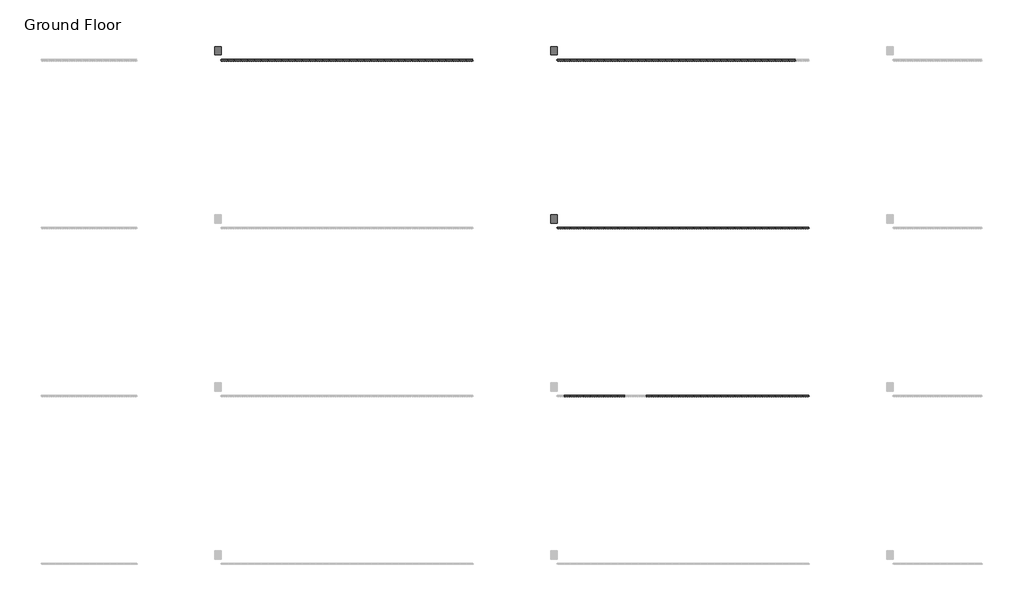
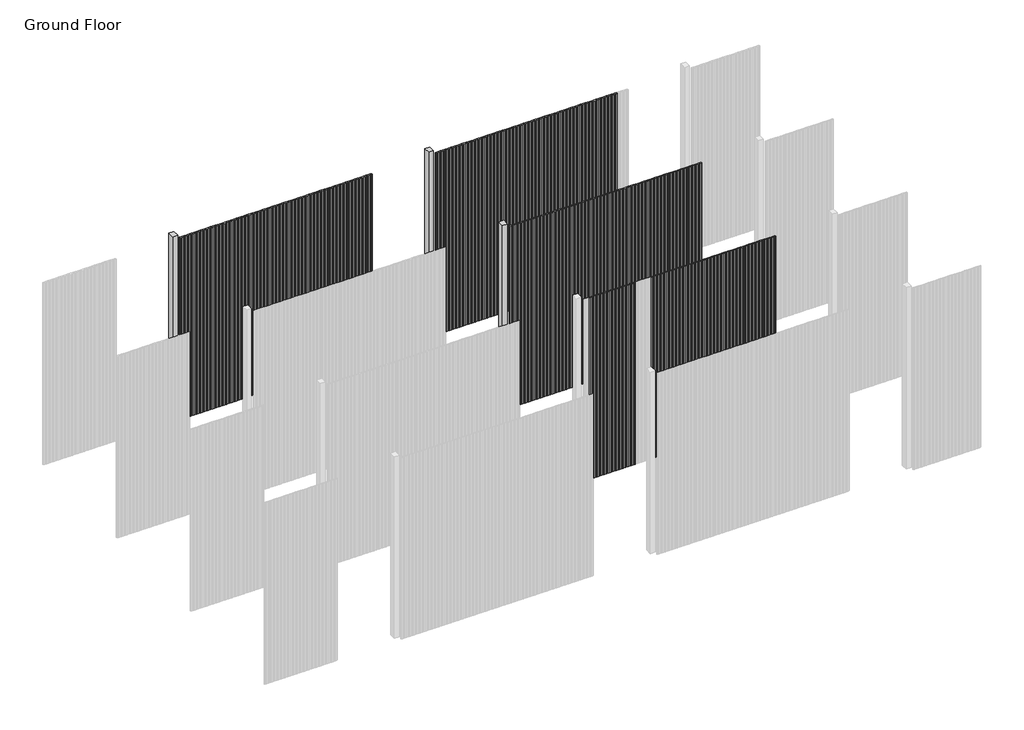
# One storey, part 41 of 350: 142 members, 3 plates.
"""IFC4 building model written with IfcOpenShell, lengths in millimetres."""

from ifc_helpers import new_model, si_unit, origin, place, context, project, spatial, transform, mapped, element, save
from components import rectangular_mullion_624eee80, rectangular_mullion_14973cdb, rectangular_mullion_eca9a012, empty_system_panel_empty_cbd4e42b

model = new_model("IFC4")

# Units and contexts
model_context = context("Model", 3, world=origin())
ifc_project = project(units=[si_unit("LENGTHUNIT", "METRE", prefix="MILLI")], contexts=[model_context])

# Site, building, storey
site = spatial("IfcSite", under=ifc_project)
building = spatial("IfcBuilding", under=site)
storey = spatial("IfcBuildingStorey", under=building, Name="Ground Floor", Elevation=0.0)

# Members
placement = place(None, origin())
rectangular_mullion_shape = rectangular_mullion_624eee80(model_context)
element("IfcMember", 1, ObjectType="Rectangular Mullion : Cladding_Timber_Modinex_Castelation_81x21_Hemlock", at=placement, inside=storey, context=model_context, shape_type="MappedRepresentation", body=[
    mapped(rectangular_mullion_shape, transform((38536.4361642, 26968.2978302, 0.0), x_axis=(1.0, 0.0, 0.0), y_axis=(0.0, -1.0, 0.0), z_axis=(0.0, 0.0, -1.0))),
])
element("IfcMember", 2, ObjectType="Rectangular Mullion : Cladding_Timber_Modinex_Castelation_81x21_Hemlock", at=placement, inside=storey, context=model_context, shape_type="MappedRepresentation", body=[
    mapped(rectangular_mullion_shape, transform((38617.4361642, 26968.2978302, 0.0), x_axis=(1.0, 0.0, 0.0), y_axis=(0.0, -1.0, 0.0), z_axis=(0.0, 0.0, -1.0))),
])
element("IfcMember", 3, ObjectType="Rectangular Mullion : Cladding_Timber_Modinex_Castelation_81x21_Hemlock", at=placement, inside=storey, context=model_context, shape_type="MappedRepresentation", body=[
    mapped(rectangular_mullion_shape, transform((38698.4361642, 26968.2978302, 0.0), x_axis=(1.0, 0.0, 0.0), y_axis=(0.0, -1.0, 0.0), z_axis=(0.0, 0.0, -1.0))),
])
element("IfcMember", 4, ObjectType="Rectangular Mullion : Cladding_Timber_Modinex_Castelation_81x21_Hemlock", at=placement, inside=storey, context=model_context, shape_type="MappedRepresentation", body=[
    mapped(rectangular_mullion_shape, transform((38779.4361642, 26968.2978302, 0.0), x_axis=(1.0, 0.0, 0.0), y_axis=(0.0, -1.0, 0.0), z_axis=(0.0, 0.0, -1.0))),
])
element("IfcMember", 5, ObjectType="Rectangular Mullion : Cladding_Timber_Modinex_Castelation_81x21_Hemlock", at=placement, inside=storey, context=model_context, shape_type="MappedRepresentation", body=[
    mapped(rectangular_mullion_shape, transform((38860.4361642, 26968.2978302, 0.0), x_axis=(1.0, 0.0, 0.0), y_axis=(0.0, -1.0, 0.0), z_axis=(0.0, 0.0, -1.0))),
])
element("IfcMember", 6, ObjectType="Rectangular Mullion : Cladding_Timber_Modinex_Castelation_81x21_Hemlock", at=placement, inside=storey, context=model_context, shape_type="MappedRepresentation", body=[
    mapped(rectangular_mullion_shape, transform((38941.4361642, 26968.2978302, 0.0), x_axis=(1.0, 0.0, 0.0), y_axis=(0.0, -1.0, 0.0), z_axis=(0.0, 0.0, -1.0))),
])
element("IfcMember", 7, ObjectType="Rectangular Mullion : Cladding_Timber_Modinex_Castelation_81x21_Hemlock", at=placement, inside=storey, context=model_context, shape_type="MappedRepresentation", body=[
    mapped(rectangular_mullion_shape, transform((39022.4361642, 26968.2978302, 0.0), x_axis=(1.0, 0.0, 0.0), y_axis=(0.0, -1.0, 0.0), z_axis=(0.0, 0.0, -1.0))),
])
element("IfcMember", 8, ObjectType="Rectangular Mullion : Cladding_Timber_Modinex_Castelation_81x21_Hemlock", at=placement, inside=storey, context=model_context, shape_type="MappedRepresentation", body=[
    mapped(rectangular_mullion_shape, transform((39103.4361642, 26968.2978302, 0.0), x_axis=(1.0, 0.0, 0.0), y_axis=(0.0, -1.0, 0.0), z_axis=(0.0, 0.0, -1.0))),
])
element("IfcMember", 9, ObjectType="Rectangular Mullion : Cladding_Timber_Modinex_Castelation_81x21_Hemlock", at=placement, inside=storey, context=model_context, shape_type="MappedRepresentation", body=[
    mapped(rectangular_mullion_shape, transform((39184.4361642, 26968.2978302, 0.0), x_axis=(1.0, 0.0, 0.0), y_axis=(0.0, -1.0, 0.0), z_axis=(0.0, 0.0, -1.0))),
])
element("IfcMember", 10, ObjectType="Rectangular Mullion : Cladding_Timber_Modinex_Castelation_81x21_Hemlock", at=placement, inside=storey, context=model_context, shape_type="MappedRepresentation", body=[
    mapped(rectangular_mullion_shape, transform((39265.4361642, 26968.2978302, 0.0), x_axis=(1.0, 0.0, 0.0), y_axis=(0.0, -1.0, 0.0), z_axis=(0.0, 0.0, -1.0))),
])
element("IfcMember", 11, ObjectType="Rectangular Mullion : Cladding_Timber_Modinex_Castelation_81x21_Hemlock", at=placement, inside=storey, context=model_context, shape_type="MappedRepresentation", body=[
    mapped(rectangular_mullion_shape, transform((39346.4361642, 26968.2978302, 0.0), x_axis=(1.0, 0.0, 0.0), y_axis=(0.0, -1.0, 0.0), z_axis=(0.0, 0.0, -1.0))),
])
element("IfcMember", 12, ObjectType="Rectangular Mullion : Cladding_Timber_Modinex_Castelation_81x21_Hemlock", at=placement, inside=storey, context=model_context, shape_type="MappedRepresentation", body=[
    mapped(rectangular_mullion_shape, transform((39427.4361642, 26968.2978302, 0.0), x_axis=(1.0, 0.0, 0.0), y_axis=(0.0, -1.0, 0.0), z_axis=(0.0, 0.0, -1.0))),
])
element("IfcMember", 13, ObjectType="Rectangular Mullion : Cladding_Timber_Modinex_Castelation_81x21_Hemlock", at=placement, inside=storey, context=model_context, shape_type="MappedRepresentation", body=[
    mapped(rectangular_mullion_shape, transform((39508.4361642, 26968.2978302, 0.0), x_axis=(1.0, 0.0, 0.0), y_axis=(0.0, -1.0, 0.0), z_axis=(0.0, 0.0, -1.0))),
])
element("IfcMember", 14, ObjectType="Rectangular Mullion : Cladding_Timber_Modinex_Castelation_81x21_Hemlock", at=placement, inside=storey, context=model_context, shape_type="MappedRepresentation", body=[
    mapped(rectangular_mullion_shape, transform((39589.4361642, 26968.2978302, 0.0), x_axis=(1.0, 0.0, 0.0), y_axis=(0.0, -1.0, 0.0), z_axis=(0.0, 0.0, -1.0))),
])
element("IfcMember", 15, ObjectType="Rectangular Mullion : Cladding_Timber_Modinex_Castelation_81x21_Hemlock", at=placement, inside=storey, context=model_context, shape_type="MappedRepresentation", body=[
    mapped(rectangular_mullion_shape, transform((39670.4361642, 26968.2978302, 0.0), x_axis=(1.0, 0.0, 0.0), y_axis=(0.0, -1.0, 0.0), z_axis=(0.0, 0.0, -1.0))),
])
element("IfcMember", 16, ObjectType="Rectangular Mullion : Cladding_Timber_Modinex_Castelation_81x21_Hemlock", at=placement, inside=storey, context=model_context, shape_type="MappedRepresentation", body=[
    mapped(rectangular_mullion_shape, transform((39751.4361642, 26968.2978302, 0.0), x_axis=(1.0, 0.0, 0.0), y_axis=(0.0, -1.0, 0.0), z_axis=(0.0, 0.0, -1.0))),
])
element("IfcMember", 17, ObjectType="Rectangular Mullion : Cladding_Timber_Modinex_Castelation_81x21_Hemlock", at=placement, inside=storey, context=model_context, shape_type="MappedRepresentation", body=[
    mapped(rectangular_mullion_shape, transform((39832.4361642, 26968.2978302, 0.0), x_axis=(1.0, 0.0, 0.0), y_axis=(0.0, -1.0, 0.0), z_axis=(0.0, 0.0, -1.0))),
])
element("IfcMember", 18, ObjectType="Rectangular Mullion : Cladding_Timber_Modinex_Castelation_81x21_Hemlock", at=placement, inside=storey, context=model_context, shape_type="MappedRepresentation", body=[
    mapped(rectangular_mullion_shape, transform((39913.4361642, 26968.2978302, 0.0), x_axis=(1.0, 0.0, 0.0), y_axis=(0.0, -1.0, 0.0), z_axis=(0.0, 0.0, -1.0))),
])
element("IfcMember", 19, ObjectType="Rectangular Mullion : Cladding_Timber_Modinex_Castelation_81x21_Hemlock", at=placement, inside=storey, context=model_context, shape_type="MappedRepresentation", body=[
    mapped(rectangular_mullion_shape, transform((38455.4361642, 26968.2978302, 0.0), x_axis=(1.0, 0.0, 0.0), y_axis=(0.0, -1.0, 0.0), z_axis=(0.0, 0.0, -1.0))),
])
element("IfcMember", 20, ObjectType="Rectangular Mullion : Cladding_Timber_Modinex_Castelation_81x21_Hemlock", at=placement, inside=storey, context=model_context, shape_type="MappedRepresentation", body=[
    mapped(rectangular_mullion_shape, transform((38374.4361642, 26968.2978302, 0.0), x_axis=(1.0, 0.0, 0.0), y_axis=(0.0, -1.0, 0.0), z_axis=(0.0, 0.0, -1.0))),
])
element("IfcMember", 21, ObjectType="Rectangular Mullion : Cladding_Timber_Modinex_Castelation_81x21_Hemlock", at=placement, inside=storey, context=model_context, shape_type="MappedRepresentation", body=[
    mapped(rectangular_mullion_shape, transform((38293.4361642, 26968.2978302, 0.0), x_axis=(1.0, 0.0, 0.0), y_axis=(0.0, -1.0, 0.0), z_axis=(0.0, 0.0, -1.0))),
])
element("IfcMember", 22, ObjectType="Rectangular Mullion : Cladding_Timber_Modinex_Castelation_81x21_Hemlock", at=placement, inside=storey, context=model_context, shape_type="MappedRepresentation", body=[
    mapped(rectangular_mullion_shape, transform((38212.4361642, 26968.2978302, 0.0), x_axis=(1.0, 0.0, 0.0), y_axis=(0.0, -1.0, 0.0), z_axis=(0.0, 0.0, -1.0))),
])
element("IfcMember", 23, ObjectType="Rectangular Mullion : Cladding_Timber_Modinex_Castelation_81x21_Hemlock", at=placement, inside=storey, context=model_context, shape_type="MappedRepresentation", body=[
    mapped(rectangular_mullion_shape, transform((38131.4361642, 26968.2978302, 0.0), x_axis=(1.0, 0.0, 0.0), y_axis=(0.0, -1.0, 0.0), z_axis=(0.0, 0.0, -1.0))),
])
element("IfcMember", 24, ObjectType="Rectangular Mullion : Cladding_Timber_Modinex_Castelation_81x21_Hemlock", at=placement, inside=storey, context=model_context, shape_type="MappedRepresentation", body=[
    mapped(rectangular_mullion_shape, transform((38050.4361642, 26968.2978302, 0.0), x_axis=(1.0, 0.0, 0.0), y_axis=(0.0, -1.0, 0.0), z_axis=(0.0, 0.0, -1.0))),
])
element("IfcMember", 25, ObjectType="Rectangular Mullion : Cladding_Timber_Modinex_Castelation_81x21_Hemlock", at=placement, inside=storey, context=model_context, shape_type="MappedRepresentation", body=[
    mapped(rectangular_mullion_shape, transform((37969.4361642, 26968.2978302, 0.0), x_axis=(1.0, 0.0, 0.0), y_axis=(0.0, -1.0, 0.0), z_axis=(0.0, 0.0, -1.0))),
])
element("IfcMember", 26, ObjectType="Rectangular Mullion : Cladding_Timber_Modinex_Castelation_81x21_Hemlock", at=placement, inside=storey, context=model_context, shape_type="MappedRepresentation", body=[
    mapped(rectangular_mullion_shape, transform((37888.4361642, 26968.2978302, 0.0), x_axis=(1.0, 0.0, 0.0), y_axis=(0.0, -1.0, 0.0), z_axis=(0.0, 0.0, -1.0))),
])
element("IfcMember", 27, ObjectType="Rectangular Mullion : Cladding_Timber_Modinex_Castelation_81x21_Hemlock", at=placement, inside=storey, context=model_context, shape_type="MappedRepresentation", body=[
    mapped(rectangular_mullion_shape, transform((37807.4361642, 26968.2978302, 0.0), x_axis=(1.0, 0.0, 0.0), y_axis=(0.0, -1.0, 0.0), z_axis=(0.0, 0.0, -1.0))),
])
element("IfcMember", 28, ObjectType="Rectangular Mullion : Cladding_Timber_Modinex_Castelation_81x21_Hemlock", at=placement, inside=storey, context=model_context, shape_type="MappedRepresentation", body=[
    mapped(rectangular_mullion_shape, transform((37726.4361642, 26968.2978302, 0.0), x_axis=(1.0, 0.0, 0.0), y_axis=(0.0, -1.0, 0.0), z_axis=(0.0, 0.0, -1.0))),
])
element("IfcMember", 29, ObjectType="Rectangular Mullion : Cladding_Timber_Modinex_Castelation_81x21_Hemlock", at=placement, inside=storey, context=model_context, shape_type="MappedRepresentation", body=[
    mapped(rectangular_mullion_shape, transform((37645.4361642, 26968.2978302, 0.0), x_axis=(1.0, 0.0, 0.0), y_axis=(0.0, -1.0, 0.0), z_axis=(0.0, 0.0, -1.0))),
])
element("IfcMember", 30, ObjectType="Rectangular Mullion : Cladding_Timber_Modinex_Castelation_81x21_Hemlock", at=placement, inside=storey, context=model_context, shape_type="MappedRepresentation", body=[
    mapped(rectangular_mullion_shape, transform((37564.4361642, 26968.2978302, 0.0), x_axis=(1.0, 0.0, 0.0), y_axis=(0.0, -1.0, 0.0), z_axis=(0.0, 0.0, -1.0))),
])
element("IfcMember", 31, ObjectType="Rectangular Mullion : Cladding_Timber_Modinex_Castelation_81x21_Hemlock", at=placement, inside=storey, context=model_context, shape_type="MappedRepresentation", body=[
    mapped(rectangular_mullion_shape, transform((37483.4361642, 26968.2978302, 0.0), x_axis=(1.0, 0.0, 0.0), y_axis=(0.0, -1.0, 0.0), z_axis=(0.0, 0.0, -1.0))),
])
element("IfcMember", 32, ObjectType="Rectangular Mullion : Cladding_Timber_Modinex_Castelation_81x21_Hemlock", at=placement, inside=storey, context=model_context, shape_type="MappedRepresentation", body=[
    mapped(rectangular_mullion_shape, transform((37402.4361642, 26968.2978302, 0.0), x_axis=(1.0, 0.0, 0.0), y_axis=(0.0, -1.0, 0.0), z_axis=(0.0, 0.0, -1.0))),
])
element("IfcMember", 33, ObjectType="Rectangular Mullion : Cladding_Timber_Modinex_Castelation_81x21_Hemlock", at=placement, inside=storey, context=model_context, shape_type="MappedRepresentation", body=[
    mapped(rectangular_mullion_shape, transform((37321.4361642, 26968.2978302, 0.0), x_axis=(1.0, 0.0, 0.0), y_axis=(0.0, -1.0, 0.0), z_axis=(0.0, 0.0, -1.0))),
])
element("IfcMember", 34, ObjectType="Rectangular Mullion : Cladding_Timber_Modinex_Castelation_81x21_Hemlock", at=placement, inside=storey, context=model_context, shape_type="MappedRepresentation", body=[
    mapped(rectangular_mullion_shape, transform((37240.4361642, 26968.2978302, 0.0), x_axis=(1.0, 0.0, 0.0), y_axis=(0.0, -1.0, 0.0), z_axis=(0.0, 0.0, -1.0))),
])
element("IfcMember", 35, ObjectType="Rectangular Mullion : Cladding_Timber_Modinex_Castelation_81x21_Hemlock", at=placement, inside=storey, context=model_context, shape_type="MappedRepresentation", body=[
    mapped(rectangular_mullion_shape, transform((37159.4361642, 26968.2978302, 0.0), x_axis=(1.0, 0.0, 0.0), y_axis=(0.0, -1.0, 0.0), z_axis=(0.0, 0.0, -1.0))),
])
element("IfcMember", 36, ObjectType="Rectangular Mullion : Cladding_Timber_Modinex_Castelation_81x21_Hemlock", at=placement, inside=storey, context=model_context, shape_type="MappedRepresentation", body=[
    mapped(rectangular_mullion_shape, transform((37078.4361642, 26968.2978302, 0.0), x_axis=(1.0, 0.0, 0.0), y_axis=(0.0, -1.0, 0.0), z_axis=(0.0, 0.0, -1.0))),
])
element("IfcMember", 37, ObjectType="Rectangular Mullion : Cladding_Timber_Modinex_Castelation_81x21_Hemlock", at=placement, inside=storey, context=model_context, shape_type="MappedRepresentation", body=[
    mapped(rectangular_mullion_shape, transform((36997.4361642, 26968.2978302, 0.0), x_axis=(1.0, 0.0, 0.0), y_axis=(0.0, -1.0, 0.0), z_axis=(0.0, 0.0, -1.0))),
])
rectangular_mullion_2_shape = rectangular_mullion_14973cdb(model_context)
element("IfcMember", 38, ObjectType="Rectangular Mullion : Cladding_Timber_Modinex_Castelation_81x18_Hemlock", at=placement, inside=storey, context=model_context, shape_type="MappedRepresentation", body=[
    mapped(rectangular_mullion_2_shape, transform((38536.4361642, 24968.2978302, 0.0), x_axis=(1.0, 0.0, 0.0), y_axis=(0.0, -1.0, 0.0), z_axis=(0.0, 0.0, -1.0))),
])
element("IfcMember", 39, ObjectType="Rectangular Mullion : Cladding_Timber_Modinex_Castelation_81x18_Hemlock", at=placement, inside=storey, context=model_context, shape_type="MappedRepresentation", body=[
    mapped(rectangular_mullion_2_shape, transform((38617.4361642, 24968.2978302, 0.0), x_axis=(1.0, 0.0, 0.0), y_axis=(0.0, -1.0, 0.0), z_axis=(0.0, 0.0, -1.0))),
])
element("IfcMember", 40, ObjectType="Rectangular Mullion : Cladding_Timber_Modinex_Castelation_81x18_Hemlock", at=placement, inside=storey, context=model_context, shape_type="MappedRepresentation", body=[
    mapped(rectangular_mullion_2_shape, transform((38698.4361642, 24968.2978302, 0.0), x_axis=(1.0, 0.0, 0.0), y_axis=(0.0, -1.0, 0.0), z_axis=(0.0, 0.0, -1.0))),
])
element("IfcMember", 41, ObjectType="Rectangular Mullion : Cladding_Timber_Modinex_Castelation_81x18_Hemlock", at=placement, inside=storey, context=model_context, shape_type="MappedRepresentation", body=[
    mapped(rectangular_mullion_2_shape, transform((38779.4361642, 24968.2978302, 0.0), x_axis=(1.0, 0.0, 0.0), y_axis=(0.0, -1.0, 0.0), z_axis=(0.0, 0.0, -1.0))),
])
element("IfcMember", 42, ObjectType="Rectangular Mullion : Cladding_Timber_Modinex_Castelation_81x18_Hemlock", at=placement, inside=storey, context=model_context, shape_type="MappedRepresentation", body=[
    mapped(rectangular_mullion_2_shape, transform((38860.4361642, 24968.2978302, 0.0), x_axis=(1.0, 0.0, 0.0), y_axis=(0.0, -1.0, 0.0), z_axis=(0.0, 0.0, -1.0))),
])
element("IfcMember", 43, ObjectType="Rectangular Mullion : Cladding_Timber_Modinex_Castelation_81x18_Hemlock", at=placement, inside=storey, context=model_context, shape_type="MappedRepresentation", body=[
    mapped(rectangular_mullion_2_shape, transform((38941.4361642, 24968.2978302, 0.0), x_axis=(1.0, 0.0, 0.0), y_axis=(0.0, -1.0, 0.0), z_axis=(0.0, 0.0, -1.0))),
])
element("IfcMember", 44, ObjectType="Rectangular Mullion : Cladding_Timber_Modinex_Castelation_81x18_Hemlock", at=placement, inside=storey, context=model_context, shape_type="MappedRepresentation", body=[
    mapped(rectangular_mullion_2_shape, transform((39022.4361642, 24968.2978302, 0.0), x_axis=(1.0, 0.0, 0.0), y_axis=(0.0, -1.0, 0.0), z_axis=(0.0, 0.0, -1.0))),
])
element("IfcMember", 45, ObjectType="Rectangular Mullion : Cladding_Timber_Modinex_Castelation_81x18_Hemlock", at=placement, inside=storey, context=model_context, shape_type="MappedRepresentation", body=[
    mapped(rectangular_mullion_2_shape, transform((39103.4361642, 24968.2978302, 0.0), x_axis=(1.0, 0.0, 0.0), y_axis=(0.0, -1.0, 0.0), z_axis=(0.0, 0.0, -1.0))),
])
element("IfcMember", 46, ObjectType="Rectangular Mullion : Cladding_Timber_Modinex_Castelation_81x18_Hemlock", at=placement, inside=storey, context=model_context, shape_type="MappedRepresentation", body=[
    mapped(rectangular_mullion_2_shape, transform((39184.4361642, 24968.2978302, 0.0), x_axis=(1.0, 0.0, 0.0), y_axis=(0.0, -1.0, 0.0), z_axis=(0.0, 0.0, -1.0))),
])
element("IfcMember", 47, ObjectType="Rectangular Mullion : Cladding_Timber_Modinex_Castelation_81x18_Hemlock", at=placement, inside=storey, context=model_context, shape_type="MappedRepresentation", body=[
    mapped(rectangular_mullion_2_shape, transform((39265.4361642, 24968.2978302, 0.0), x_axis=(1.0, 0.0, 0.0), y_axis=(0.0, -1.0, 0.0), z_axis=(0.0, 0.0, -1.0))),
])
element("IfcMember", 48, ObjectType="Rectangular Mullion : Cladding_Timber_Modinex_Castelation_81x18_Hemlock", at=placement, inside=storey, context=model_context, shape_type="MappedRepresentation", body=[
    mapped(rectangular_mullion_2_shape, transform((39346.4361642, 24968.2978302, 0.0), x_axis=(1.0, 0.0, 0.0), y_axis=(0.0, -1.0, 0.0), z_axis=(0.0, 0.0, -1.0))),
])
element("IfcMember", 49, ObjectType="Rectangular Mullion : Cladding_Timber_Modinex_Castelation_81x18_Hemlock", at=placement, inside=storey, context=model_context, shape_type="MappedRepresentation", body=[
    mapped(rectangular_mullion_2_shape, transform((39427.4361642, 24968.2978302, 0.0), x_axis=(1.0, 0.0, 0.0), y_axis=(0.0, -1.0, 0.0), z_axis=(0.0, 0.0, -1.0))),
])
element("IfcMember", 50, ObjectType="Rectangular Mullion : Cladding_Timber_Modinex_Castelation_81x18_Hemlock", at=placement, inside=storey, context=model_context, shape_type="MappedRepresentation", body=[
    mapped(rectangular_mullion_2_shape, transform((39508.4361642, 24968.2978302, 0.0), x_axis=(1.0, 0.0, 0.0), y_axis=(0.0, -1.0, 0.0), z_axis=(0.0, 0.0, -1.0))),
])
element("IfcMember", 51, ObjectType="Rectangular Mullion : Cladding_Timber_Modinex_Castelation_81x18_Hemlock", at=placement, inside=storey, context=model_context, shape_type="MappedRepresentation", body=[
    mapped(rectangular_mullion_2_shape, transform((39589.4361642, 24968.2978302, 0.0), x_axis=(1.0, 0.0, 0.0), y_axis=(0.0, -1.0, 0.0), z_axis=(0.0, 0.0, -1.0))),
])
element("IfcMember", 52, ObjectType="Rectangular Mullion : Cladding_Timber_Modinex_Castelation_81x18_Hemlock", at=placement, inside=storey, context=model_context, shape_type="MappedRepresentation", body=[
    mapped(rectangular_mullion_2_shape, transform((39670.4361642, 24968.2978302, 0.0), x_axis=(1.0, 0.0, 0.0), y_axis=(0.0, -1.0, 0.0), z_axis=(0.0, 0.0, -1.0))),
])
element("IfcMember", 53, ObjectType="Rectangular Mullion : Cladding_Timber_Modinex_Castelation_81x18_Hemlock", at=placement, inside=storey, context=model_context, shape_type="MappedRepresentation", body=[
    mapped(rectangular_mullion_2_shape, transform((39751.4361642, 24968.2978302, 0.0), x_axis=(1.0, 0.0, 0.0), y_axis=(0.0, -1.0, 0.0), z_axis=(0.0, 0.0, -1.0))),
])
element("IfcMember", 54, ObjectType="Rectangular Mullion : Cladding_Timber_Modinex_Castelation_81x18_Hemlock", at=placement, inside=storey, context=model_context, shape_type="MappedRepresentation", body=[
    mapped(rectangular_mullion_2_shape, transform((39832.4361642, 24968.2978302, 0.0), x_axis=(1.0, 0.0, 0.0), y_axis=(0.0, -1.0, 0.0), z_axis=(0.0, 0.0, -1.0))),
])
element("IfcMember", 55, ObjectType="Rectangular Mullion : Cladding_Timber_Modinex_Castelation_81x18_Hemlock", at=placement, inside=storey, context=model_context, shape_type="MappedRepresentation", body=[
    mapped(rectangular_mullion_2_shape, transform((39913.4361642, 24968.2978302, 0.0), x_axis=(1.0, 0.0, 0.0), y_axis=(0.0, -1.0, 0.0), z_axis=(0.0, 0.0, -1.0))),
])
element("IfcMember", 56, ObjectType="Rectangular Mullion : Cladding_Timber_Modinex_Castelation_81x18_Hemlock", at=placement, inside=storey, context=model_context, shape_type="MappedRepresentation", body=[
    mapped(rectangular_mullion_2_shape, transform((38455.4361642, 24968.2978302, 0.0), x_axis=(1.0, 0.0, 0.0), y_axis=(0.0, -1.0, 0.0), z_axis=(0.0, 0.0, -1.0))),
])
element("IfcMember", 57, ObjectType="Rectangular Mullion : Cladding_Timber_Modinex_Castelation_81x18_Hemlock", at=placement, inside=storey, context=model_context, shape_type="MappedRepresentation", body=[
    mapped(rectangular_mullion_2_shape, transform((38374.4361642, 24968.2978302, 0.0), x_axis=(1.0, 0.0, 0.0), y_axis=(0.0, -1.0, 0.0), z_axis=(0.0, 0.0, -1.0))),
])
element("IfcMember", 58, ObjectType="Rectangular Mullion : Cladding_Timber_Modinex_Castelation_81x18_Hemlock", at=placement, inside=storey, context=model_context, shape_type="MappedRepresentation", body=[
    mapped(rectangular_mullion_2_shape, transform((38293.4361642, 24968.2978302, 0.0), x_axis=(1.0, 0.0, 0.0), y_axis=(0.0, -1.0, 0.0), z_axis=(0.0, 0.0, -1.0))),
])
element("IfcMember", 59, ObjectType="Rectangular Mullion : Cladding_Timber_Modinex_Castelation_81x18_Hemlock", at=placement, inside=storey, context=model_context, shape_type="MappedRepresentation", body=[
    mapped(rectangular_mullion_2_shape, transform((38212.4361642, 24968.2978302, 0.0), x_axis=(1.0, 0.0, 0.0), y_axis=(0.0, -1.0, 0.0), z_axis=(0.0, 0.0, -1.0))),
])
element("IfcMember", 60, ObjectType="Rectangular Mullion : Cladding_Timber_Modinex_Castelation_81x18_Hemlock", at=placement, inside=storey, context=model_context, shape_type="MappedRepresentation", body=[
    mapped(rectangular_mullion_2_shape, transform((38131.4361642, 24968.2978302, 0.0), x_axis=(1.0, 0.0, 0.0), y_axis=(0.0, -1.0, 0.0), z_axis=(0.0, 0.0, -1.0))),
])
element("IfcMember", 61, ObjectType="Rectangular Mullion : Cladding_Timber_Modinex_Castelation_81x18_Hemlock", at=placement, inside=storey, context=model_context, shape_type="MappedRepresentation", body=[
    mapped(rectangular_mullion_2_shape, transform((38050.4361642, 24968.2978302, 0.0), x_axis=(1.0, 0.0, 0.0), y_axis=(0.0, -1.0, 0.0), z_axis=(0.0, 0.0, -1.0))),
])
element("IfcMember", 62, ObjectType="Rectangular Mullion : Cladding_Timber_Modinex_Castelation_81x18_Hemlock", at=placement, inside=storey, context=model_context, shape_type="MappedRepresentation", body=[
    mapped(rectangular_mullion_2_shape, transform((37726.4361642, 24968.2978302, 0.0), x_axis=(1.0, 0.0, 0.0), y_axis=(0.0, -1.0, 0.0), z_axis=(0.0, 0.0, -1.0))),
])
element("IfcMember", 63, ObjectType="Rectangular Mullion : Cladding_Timber_Modinex_Castelation_81x18_Hemlock", at=placement, inside=storey, context=model_context, shape_type="MappedRepresentation", body=[
    mapped(rectangular_mullion_2_shape, transform((37645.4361642, 24968.2978302, 0.0), x_axis=(1.0, 0.0, 0.0), y_axis=(0.0, -1.0, 0.0), z_axis=(0.0, 0.0, -1.0))),
])
element("IfcMember", 64, ObjectType="Rectangular Mullion : Cladding_Timber_Modinex_Castelation_81x18_Hemlock", at=placement, inside=storey, context=model_context, shape_type="MappedRepresentation", body=[
    mapped(rectangular_mullion_2_shape, transform((37564.4361642, 24968.2978302, 0.0), x_axis=(1.0, 0.0, 0.0), y_axis=(0.0, -1.0, 0.0), z_axis=(0.0, 0.0, -1.0))),
])
element("IfcMember", 65, ObjectType="Rectangular Mullion : Cladding_Timber_Modinex_Castelation_81x18_Hemlock", at=placement, inside=storey, context=model_context, shape_type="MappedRepresentation", body=[
    mapped(rectangular_mullion_2_shape, transform((37483.4361642, 24968.2978302, 0.0), x_axis=(1.0, 0.0, 0.0), y_axis=(0.0, -1.0, 0.0), z_axis=(0.0, 0.0, -1.0))),
])
element("IfcMember", 66, ObjectType="Rectangular Mullion : Cladding_Timber_Modinex_Castelation_81x18_Hemlock", at=placement, inside=storey, context=model_context, shape_type="MappedRepresentation", body=[
    mapped(rectangular_mullion_2_shape, transform((37402.4361642, 24968.2978302, 0.0), x_axis=(1.0, 0.0, 0.0), y_axis=(0.0, -1.0, 0.0), z_axis=(0.0, 0.0, -1.0))),
])
element("IfcMember", 67, ObjectType="Rectangular Mullion : Cladding_Timber_Modinex_Castelation_81x18_Hemlock", at=placement, inside=storey, context=model_context, shape_type="MappedRepresentation", body=[
    mapped(rectangular_mullion_2_shape, transform((37321.4361642, 24968.2978302, 0.0), x_axis=(1.0, 0.0, 0.0), y_axis=(0.0, -1.0, 0.0), z_axis=(0.0, 0.0, -1.0))),
])
element("IfcMember", 68, ObjectType="Rectangular Mullion : Cladding_Timber_Modinex_Castelation_81x18_Hemlock", at=placement, inside=storey, context=model_context, shape_type="MappedRepresentation", body=[
    mapped(rectangular_mullion_2_shape, transform((37240.4361642, 24968.2978302, 0.0), x_axis=(1.0, 0.0, 0.0), y_axis=(0.0, -1.0, 0.0), z_axis=(0.0, 0.0, -1.0))),
])
element("IfcMember", 69, ObjectType="Rectangular Mullion : Cladding_Timber_Modinex_Castelation_81x18_Hemlock", at=placement, inside=storey, context=model_context, shape_type="MappedRepresentation", body=[
    mapped(rectangular_mullion_2_shape, transform((37159.4361642, 24968.2978302, 0.0), x_axis=(1.0, 0.0, 0.0), y_axis=(0.0, -1.0, 0.0), z_axis=(0.0, 0.0, -1.0))),
])
element("IfcMember", 70, ObjectType="Rectangular Mullion : Cladding_Timber_Modinex_Castelation_81x18_Hemlock", at=placement, inside=storey, context=model_context, shape_type="MappedRepresentation", body=[
    mapped(rectangular_mullion_2_shape, transform((37078.4361642, 24968.2978302, 0.0), x_axis=(1.0, 0.0, 0.0), y_axis=(0.0, -1.0, 0.0), z_axis=(0.0, 0.0, -1.0))),
])
rectangular_mullion_3_shape = rectangular_mullion_eca9a012(model_context)
element("IfcMember", 71, ObjectType="Rectangular Mullion : Cladding_Timber_Modinex_Castelation_81x26_Blackbutt", at=placement, inside=storey, context=model_context, shape_type="MappedRepresentation", body=[
    mapped(rectangular_mullion_3_shape, transform((34536.4361642, 28968.2978302, 0.0), x_axis=(1.0, 0.0, 0.0), y_axis=(0.0, -1.0, 0.0), z_axis=(0.0, 0.0, -1.0))),
])
element("IfcMember", 72, ObjectType="Rectangular Mullion : Cladding_Timber_Modinex_Castelation_81x26_Blackbutt", at=placement, inside=storey, context=model_context, shape_type="MappedRepresentation", body=[
    mapped(rectangular_mullion_3_shape, transform((34617.4361642, 28968.2978302, 0.0), x_axis=(1.0, 0.0, 0.0), y_axis=(0.0, -1.0, 0.0), z_axis=(0.0, 0.0, -1.0))),
])
element("IfcMember", 73, ObjectType="Rectangular Mullion : Cladding_Timber_Modinex_Castelation_81x26_Blackbutt", at=placement, inside=storey, context=model_context, shape_type="MappedRepresentation", body=[
    mapped(rectangular_mullion_3_shape, transform((34698.4361642, 28968.2978302, 0.0), x_axis=(1.0, 0.0, 0.0), y_axis=(0.0, -1.0, 0.0), z_axis=(0.0, 0.0, -1.0))),
])
element("IfcMember", 74, ObjectType="Rectangular Mullion : Cladding_Timber_Modinex_Castelation_81x26_Blackbutt", at=placement, inside=storey, context=model_context, shape_type="MappedRepresentation", body=[
    mapped(rectangular_mullion_3_shape, transform((34779.4361642, 28968.2978302, 0.0), x_axis=(1.0, 0.0, 0.0), y_axis=(0.0, -1.0, 0.0), z_axis=(0.0, 0.0, -1.0))),
])
element("IfcMember", 75, ObjectType="Rectangular Mullion : Cladding_Timber_Modinex_Castelation_81x26_Blackbutt", at=placement, inside=storey, context=model_context, shape_type="MappedRepresentation", body=[
    mapped(rectangular_mullion_3_shape, transform((34860.4361642, 28968.2978302, 0.0), x_axis=(1.0, 0.0, 0.0), y_axis=(0.0, -1.0, 0.0), z_axis=(0.0, 0.0, -1.0))),
])
element("IfcMember", 76, ObjectType="Rectangular Mullion : Cladding_Timber_Modinex_Castelation_81x26_Blackbutt", at=placement, inside=storey, context=model_context, shape_type="MappedRepresentation", body=[
    mapped(rectangular_mullion_3_shape, transform((34941.4361642, 28968.2978302, 0.0), x_axis=(1.0, 0.0, 0.0), y_axis=(0.0, -1.0, 0.0), z_axis=(0.0, 0.0, -1.0))),
])
element("IfcMember", 77, ObjectType="Rectangular Mullion : Cladding_Timber_Modinex_Castelation_81x26_Blackbutt", at=placement, inside=storey, context=model_context, shape_type="MappedRepresentation", body=[
    mapped(rectangular_mullion_3_shape, transform((35022.4361642, 28968.2978302, 0.0), x_axis=(1.0, 0.0, 0.0), y_axis=(0.0, -1.0, 0.0), z_axis=(0.0, 0.0, -1.0))),
])
element("IfcMember", 78, ObjectType="Rectangular Mullion : Cladding_Timber_Modinex_Castelation_81x26_Blackbutt", at=placement, inside=storey, context=model_context, shape_type="MappedRepresentation", body=[
    mapped(rectangular_mullion_3_shape, transform((35103.4361642, 28968.2978302, 0.0), x_axis=(1.0, 0.0, 0.0), y_axis=(0.0, -1.0, 0.0), z_axis=(0.0, 0.0, -1.0))),
])
element("IfcMember", 79, ObjectType="Rectangular Mullion : Cladding_Timber_Modinex_Castelation_81x26_Blackbutt", at=placement, inside=storey, context=model_context, shape_type="MappedRepresentation", body=[
    mapped(rectangular_mullion_3_shape, transform((35184.4361642, 28968.2978302, 0.0), x_axis=(1.0, 0.0, 0.0), y_axis=(0.0, -1.0, 0.0), z_axis=(0.0, 0.0, -1.0))),
])
element("IfcMember", 80, ObjectType="Rectangular Mullion : Cladding_Timber_Modinex_Castelation_81x26_Blackbutt", at=placement, inside=storey, context=model_context, shape_type="MappedRepresentation", body=[
    mapped(rectangular_mullion_3_shape, transform((35265.4361642, 28968.2978302, 0.0), x_axis=(1.0, 0.0, 0.0), y_axis=(0.0, -1.0, 0.0), z_axis=(0.0, 0.0, -1.0))),
])
element("IfcMember", 81, ObjectType="Rectangular Mullion : Cladding_Timber_Modinex_Castelation_81x26_Blackbutt", at=placement, inside=storey, context=model_context, shape_type="MappedRepresentation", body=[
    mapped(rectangular_mullion_3_shape, transform((35346.4361642, 28968.2978302, 0.0), x_axis=(1.0, 0.0, 0.0), y_axis=(0.0, -1.0, 0.0), z_axis=(0.0, 0.0, -1.0))),
])
element("IfcMember", 82, ObjectType="Rectangular Mullion : Cladding_Timber_Modinex_Castelation_81x26_Blackbutt", at=placement, inside=storey, context=model_context, shape_type="MappedRepresentation", body=[
    mapped(rectangular_mullion_3_shape, transform((35427.4361642, 28968.2978302, 0.0), x_axis=(1.0, 0.0, 0.0), y_axis=(0.0, -1.0, 0.0), z_axis=(0.0, 0.0, -1.0))),
])
element("IfcMember", 83, ObjectType="Rectangular Mullion : Cladding_Timber_Modinex_Castelation_81x26_Blackbutt", at=placement, inside=storey, context=model_context, shape_type="MappedRepresentation", body=[
    mapped(rectangular_mullion_3_shape, transform((35508.4361642, 28968.2978302, 0.0), x_axis=(1.0, 0.0, 0.0), y_axis=(0.0, -1.0, 0.0), z_axis=(0.0, 0.0, -1.0))),
])
element("IfcMember", 84, ObjectType="Rectangular Mullion : Cladding_Timber_Modinex_Castelation_81x26_Blackbutt", at=placement, inside=storey, context=model_context, shape_type="MappedRepresentation", body=[
    mapped(rectangular_mullion_3_shape, transform((35589.4361642, 28968.2978302, 0.0), x_axis=(1.0, 0.0, 0.0), y_axis=(0.0, -1.0, 0.0), z_axis=(0.0, 0.0, -1.0))),
])
element("IfcMember", 85, ObjectType="Rectangular Mullion : Cladding_Timber_Modinex_Castelation_81x26_Blackbutt", at=placement, inside=storey, context=model_context, shape_type="MappedRepresentation", body=[
    mapped(rectangular_mullion_3_shape, transform((35670.4361642, 28968.2978302, 0.0), x_axis=(1.0, 0.0, 0.0), y_axis=(0.0, -1.0, 0.0), z_axis=(0.0, 0.0, -1.0))),
])
element("IfcMember", 86, ObjectType="Rectangular Mullion : Cladding_Timber_Modinex_Castelation_81x26_Blackbutt", at=placement, inside=storey, context=model_context, shape_type="MappedRepresentation", body=[
    mapped(rectangular_mullion_3_shape, transform((35751.4361642, 28968.2978302, 0.0), x_axis=(1.0, 0.0, 0.0), y_axis=(0.0, -1.0, 0.0), z_axis=(0.0, 0.0, -1.0))),
])
element("IfcMember", 87, ObjectType="Rectangular Mullion : Cladding_Timber_Modinex_Castelation_81x26_Blackbutt", at=placement, inside=storey, context=model_context, shape_type="MappedRepresentation", body=[
    mapped(rectangular_mullion_3_shape, transform((35832.4361642, 28968.2978302, 0.0), x_axis=(1.0, 0.0, 0.0), y_axis=(0.0, -1.0, 0.0), z_axis=(0.0, 0.0, -1.0))),
])
element("IfcMember", 88, ObjectType="Rectangular Mullion : Cladding_Timber_Modinex_Castelation_81x26_Blackbutt", at=placement, inside=storey, context=model_context, shape_type="MappedRepresentation", body=[
    mapped(rectangular_mullion_3_shape, transform((35913.4361642, 28968.2978302, 0.0), x_axis=(1.0, 0.0, 0.0), y_axis=(0.0, -1.0, 0.0), z_axis=(0.0, 0.0, -1.0))),
])
element("IfcMember", 89, ObjectType="Rectangular Mullion : Cladding_Timber_Modinex_Castelation_81x26_Blackbutt", at=placement, inside=storey, context=model_context, shape_type="MappedRepresentation", body=[
    mapped(rectangular_mullion_3_shape, transform((34455.4361642, 28968.2978302, 0.0), x_axis=(1.0, 0.0, 0.0), y_axis=(0.0, -1.0, 0.0), z_axis=(0.0, 0.0, -1.0))),
])
element("IfcMember", 90, ObjectType="Rectangular Mullion : Cladding_Timber_Modinex_Castelation_81x26_Blackbutt", at=placement, inside=storey, context=model_context, shape_type="MappedRepresentation", body=[
    mapped(rectangular_mullion_3_shape, transform((34374.4361642, 28968.2978302, 0.0), x_axis=(1.0, 0.0, 0.0), y_axis=(0.0, -1.0, 0.0), z_axis=(0.0, 0.0, -1.0))),
])
element("IfcMember", 91, ObjectType="Rectangular Mullion : Cladding_Timber_Modinex_Castelation_81x26_Blackbutt", at=placement, inside=storey, context=model_context, shape_type="MappedRepresentation", body=[
    mapped(rectangular_mullion_3_shape, transform((34293.4361642, 28968.2978302, 0.0), x_axis=(1.0, 0.0, 0.0), y_axis=(0.0, -1.0, 0.0), z_axis=(0.0, 0.0, -1.0))),
])
element("IfcMember", 92, ObjectType="Rectangular Mullion : Cladding_Timber_Modinex_Castelation_81x26_Blackbutt", at=placement, inside=storey, context=model_context, shape_type="MappedRepresentation", body=[
    mapped(rectangular_mullion_3_shape, transform((34212.4361642, 28968.2978302, 0.0), x_axis=(1.0, 0.0, 0.0), y_axis=(0.0, -1.0, 0.0), z_axis=(0.0, 0.0, -1.0))),
])
element("IfcMember", 93, ObjectType="Rectangular Mullion : Cladding_Timber_Modinex_Castelation_81x26_Blackbutt", at=placement, inside=storey, context=model_context, shape_type="MappedRepresentation", body=[
    mapped(rectangular_mullion_3_shape, transform((34131.4361642, 28968.2978302, 0.0), x_axis=(1.0, 0.0, 0.0), y_axis=(0.0, -1.0, 0.0), z_axis=(0.0, 0.0, -1.0))),
])
element("IfcMember", 94, ObjectType="Rectangular Mullion : Cladding_Timber_Modinex_Castelation_81x26_Blackbutt", at=placement, inside=storey, context=model_context, shape_type="MappedRepresentation", body=[
    mapped(rectangular_mullion_3_shape, transform((34050.4361642, 28968.2978302, 0.0), x_axis=(1.0, 0.0, 0.0), y_axis=(0.0, -1.0, 0.0), z_axis=(0.0, 0.0, -1.0))),
])
element("IfcMember", 95, ObjectType="Rectangular Mullion : Cladding_Timber_Modinex_Castelation_81x26_Blackbutt", at=placement, inside=storey, context=model_context, shape_type="MappedRepresentation", body=[
    mapped(rectangular_mullion_3_shape, transform((33969.4361642, 28968.2978302, 0.0), x_axis=(1.0, 0.0, 0.0), y_axis=(0.0, -1.0, 0.0), z_axis=(0.0, 0.0, -1.0))),
])
element("IfcMember", 96, ObjectType="Rectangular Mullion : Cladding_Timber_Modinex_Castelation_81x26_Blackbutt", at=placement, inside=storey, context=model_context, shape_type="MappedRepresentation", body=[
    mapped(rectangular_mullion_3_shape, transform((33888.4361642, 28968.2978302, 0.0), x_axis=(1.0, 0.0, 0.0), y_axis=(0.0, -1.0, 0.0), z_axis=(0.0, 0.0, -1.0))),
])
element("IfcMember", 97, ObjectType="Rectangular Mullion : Cladding_Timber_Modinex_Castelation_81x26_Blackbutt", at=placement, inside=storey, context=model_context, shape_type="MappedRepresentation", body=[
    mapped(rectangular_mullion_3_shape, transform((33807.4361642, 28968.2978302, 0.0), x_axis=(1.0, 0.0, 0.0), y_axis=(0.0, -1.0, 0.0), z_axis=(0.0, 0.0, -1.0))),
])
element("IfcMember", 98, ObjectType="Rectangular Mullion : Cladding_Timber_Modinex_Castelation_81x26_Blackbutt", at=placement, inside=storey, context=model_context, shape_type="MappedRepresentation", body=[
    mapped(rectangular_mullion_3_shape, transform((33726.4361642, 28968.2978302, 0.0), x_axis=(1.0, 0.0, 0.0), y_axis=(0.0, -1.0, 0.0), z_axis=(0.0, 0.0, -1.0))),
])
element("IfcMember", 99, ObjectType="Rectangular Mullion : Cladding_Timber_Modinex_Castelation_81x26_Blackbutt", at=placement, inside=storey, context=model_context, shape_type="MappedRepresentation", body=[
    mapped(rectangular_mullion_3_shape, transform((33645.4361642, 28968.2978302, 0.0), x_axis=(1.0, 0.0, 0.0), y_axis=(0.0, -1.0, 0.0), z_axis=(0.0, 0.0, -1.0))),
])
element("IfcMember", 100, ObjectType="Rectangular Mullion : Cladding_Timber_Modinex_Castelation_81x26_Blackbutt", at=placement, inside=storey, context=model_context, shape_type="MappedRepresentation", body=[
    mapped(rectangular_mullion_3_shape, transform((33564.4361642, 28968.2978302, 0.0), x_axis=(1.0, 0.0, 0.0), y_axis=(0.0, -1.0, 0.0), z_axis=(0.0, 0.0, -1.0))),
])
element("IfcMember", 101, ObjectType="Rectangular Mullion : Cladding_Timber_Modinex_Castelation_81x26_Blackbutt", at=placement, inside=storey, context=model_context, shape_type="MappedRepresentation", body=[
    mapped(rectangular_mullion_3_shape, transform((33483.4361642, 28968.2978302, 0.0), x_axis=(1.0, 0.0, 0.0), y_axis=(0.0, -1.0, 0.0), z_axis=(0.0, 0.0, -1.0))),
])
element("IfcMember", 102, ObjectType="Rectangular Mullion : Cladding_Timber_Modinex_Castelation_81x26_Blackbutt", at=placement, inside=storey, context=model_context, shape_type="MappedRepresentation", body=[
    mapped(rectangular_mullion_3_shape, transform((33402.4361642, 28968.2978302, 0.0), x_axis=(1.0, 0.0, 0.0), y_axis=(0.0, -1.0, 0.0), z_axis=(0.0, 0.0, -1.0))),
])
element("IfcMember", 103, ObjectType="Rectangular Mullion : Cladding_Timber_Modinex_Castelation_81x26_Blackbutt", at=placement, inside=storey, context=model_context, shape_type="MappedRepresentation", body=[
    mapped(rectangular_mullion_3_shape, transform((33321.4361642, 28968.2978302, 0.0), x_axis=(1.0, 0.0, 0.0), y_axis=(0.0, -1.0, 0.0), z_axis=(0.0, 0.0, -1.0))),
])
element("IfcMember", 104, ObjectType="Rectangular Mullion : Cladding_Timber_Modinex_Castelation_81x26_Blackbutt", at=placement, inside=storey, context=model_context, shape_type="MappedRepresentation", body=[
    mapped(rectangular_mullion_3_shape, transform((33240.4361642, 28968.2978302, 0.0), x_axis=(1.0, 0.0, 0.0), y_axis=(0.0, -1.0, 0.0), z_axis=(0.0, 0.0, -1.0))),
])
element("IfcMember", 105, ObjectType="Rectangular Mullion : Cladding_Timber_Modinex_Castelation_81x26_Blackbutt", at=placement, inside=storey, context=model_context, shape_type="MappedRepresentation", body=[
    mapped(rectangular_mullion_3_shape, transform((33159.4361642, 28968.2978302, 0.0), x_axis=(1.0, 0.0, 0.0), y_axis=(0.0, -1.0, 0.0), z_axis=(0.0, 0.0, -1.0))),
])
element("IfcMember", 106, ObjectType="Rectangular Mullion : Cladding_Timber_Modinex_Castelation_81x26_Blackbutt", at=placement, inside=storey, context=model_context, shape_type="MappedRepresentation", body=[
    mapped(rectangular_mullion_3_shape, transform((33078.4361642, 28968.2978302, 0.0), x_axis=(1.0, 0.0, 0.0), y_axis=(0.0, -1.0, 0.0), z_axis=(0.0, 0.0, -1.0))),
])
element("IfcMember", 107, ObjectType="Rectangular Mullion : Cladding_Timber_Modinex_Castelation_81x26_Blackbutt", at=placement, inside=storey, context=model_context, shape_type="MappedRepresentation", body=[
    mapped(rectangular_mullion_3_shape, transform((32997.4361642, 28968.2978302, 0.0), x_axis=(1.0, 0.0, 0.0), y_axis=(0.0, -1.0, 0.0), z_axis=(0.0, 0.0, -1.0))),
])
element("IfcMember", 108, ObjectType="Rectangular Mullion : Cladding_Timber_Modinex_Castelation_81x26_Hemlock", at=placement, inside=storey, context=model_context, shape_type="MappedRepresentation", body=[
    mapped(rectangular_mullion_3_shape, transform((38536.4361642, 28968.2978302, 0.0), x_axis=(1.0, 0.0, 0.0), y_axis=(0.0, -1.0, 0.0), z_axis=(0.0, 0.0, -1.0))),
])
element("IfcMember", 109, ObjectType="Rectangular Mullion : Cladding_Timber_Modinex_Castelation_81x26_Hemlock", at=placement, inside=storey, context=model_context, shape_type="MappedRepresentation", body=[
    mapped(rectangular_mullion_3_shape, transform((38617.4361642, 28968.2978302, 0.0), x_axis=(1.0, 0.0, 0.0), y_axis=(0.0, -1.0, 0.0), z_axis=(0.0, 0.0, -1.0))),
])
element("IfcMember", 110, ObjectType="Rectangular Mullion : Cladding_Timber_Modinex_Castelation_81x26_Hemlock", at=placement, inside=storey, context=model_context, shape_type="MappedRepresentation", body=[
    mapped(rectangular_mullion_3_shape, transform((38698.4361642, 28968.2978302, 0.0), x_axis=(1.0, 0.0, 0.0), y_axis=(0.0, -1.0, 0.0), z_axis=(0.0, 0.0, -1.0))),
])
element("IfcMember", 111, ObjectType="Rectangular Mullion : Cladding_Timber_Modinex_Castelation_81x26_Hemlock", at=placement, inside=storey, context=model_context, shape_type="MappedRepresentation", body=[
    mapped(rectangular_mullion_3_shape, transform((38779.4361642, 28968.2978302, 0.0), x_axis=(1.0, 0.0, 0.0), y_axis=(0.0, -1.0, 0.0), z_axis=(0.0, 0.0, -1.0))),
])
element("IfcMember", 112, ObjectType="Rectangular Mullion : Cladding_Timber_Modinex_Castelation_81x26_Hemlock", at=placement, inside=storey, context=model_context, shape_type="MappedRepresentation", body=[
    mapped(rectangular_mullion_3_shape, transform((38860.4361642, 28968.2978302, 0.0), x_axis=(1.0, 0.0, 0.0), y_axis=(0.0, -1.0, 0.0), z_axis=(0.0, 0.0, -1.0))),
])
element("IfcMember", 113, ObjectType="Rectangular Mullion : Cladding_Timber_Modinex_Castelation_81x26_Hemlock", at=placement, inside=storey, context=model_context, shape_type="MappedRepresentation", body=[
    mapped(rectangular_mullion_3_shape, transform((38941.4361642, 28968.2978302, 0.0), x_axis=(1.0, 0.0, 0.0), y_axis=(0.0, -1.0, 0.0), z_axis=(0.0, 0.0, -1.0))),
])
element("IfcMember", 114, ObjectType="Rectangular Mullion : Cladding_Timber_Modinex_Castelation_81x26_Hemlock", at=placement, inside=storey, context=model_context, shape_type="MappedRepresentation", body=[
    mapped(rectangular_mullion_3_shape, transform((39022.4361642, 28968.2978302, 0.0), x_axis=(1.0, 0.0, 0.0), y_axis=(0.0, -1.0, 0.0), z_axis=(0.0, 0.0, -1.0))),
])
element("IfcMember", 115, ObjectType="Rectangular Mullion : Cladding_Timber_Modinex_Castelation_81x26_Hemlock", at=placement, inside=storey, context=model_context, shape_type="MappedRepresentation", body=[
    mapped(rectangular_mullion_3_shape, transform((39103.4361642, 28968.2978302, 0.0), x_axis=(1.0, 0.0, 0.0), y_axis=(0.0, -1.0, 0.0), z_axis=(0.0, 0.0, -1.0))),
])
element("IfcMember", 116, ObjectType="Rectangular Mullion : Cladding_Timber_Modinex_Castelation_81x26_Hemlock", at=placement, inside=storey, context=model_context, shape_type="MappedRepresentation", body=[
    mapped(rectangular_mullion_3_shape, transform((39184.4361642, 28968.2978302, 0.0), x_axis=(1.0, 0.0, 0.0), y_axis=(0.0, -1.0, 0.0), z_axis=(0.0, 0.0, -1.0))),
])
element("IfcMember", 117, ObjectType="Rectangular Mullion : Cladding_Timber_Modinex_Castelation_81x26_Hemlock", at=placement, inside=storey, context=model_context, shape_type="MappedRepresentation", body=[
    mapped(rectangular_mullion_3_shape, transform((39265.4361642, 28968.2978302, 0.0), x_axis=(1.0, 0.0, 0.0), y_axis=(0.0, -1.0, 0.0), z_axis=(0.0, 0.0, -1.0))),
])
element("IfcMember", 118, ObjectType="Rectangular Mullion : Cladding_Timber_Modinex_Castelation_81x26_Hemlock", at=placement, inside=storey, context=model_context, shape_type="MappedRepresentation", body=[
    mapped(rectangular_mullion_3_shape, transform((39346.4361642, 28968.2978302, 0.0), x_axis=(1.0, 0.0, 0.0), y_axis=(0.0, -1.0, 0.0), z_axis=(0.0, 0.0, -1.0))),
])
element("IfcMember", 119, ObjectType="Rectangular Mullion : Cladding_Timber_Modinex_Castelation_81x26_Hemlock", at=placement, inside=storey, context=model_context, shape_type="MappedRepresentation", body=[
    mapped(rectangular_mullion_3_shape, transform((39427.4361642, 28968.2978302, 0.0), x_axis=(1.0, 0.0, 0.0), y_axis=(0.0, -1.0, 0.0), z_axis=(0.0, 0.0, -1.0))),
])
element("IfcMember", 120, ObjectType="Rectangular Mullion : Cladding_Timber_Modinex_Castelation_81x26_Hemlock", at=placement, inside=storey, context=model_context, shape_type="MappedRepresentation", body=[
    mapped(rectangular_mullion_3_shape, transform((39508.4361642, 28968.2978302, 0.0), x_axis=(1.0, 0.0, 0.0), y_axis=(0.0, -1.0, 0.0), z_axis=(0.0, 0.0, -1.0))),
])
element("IfcMember", 121, ObjectType="Rectangular Mullion : Cladding_Timber_Modinex_Castelation_81x26_Hemlock", at=placement, inside=storey, context=model_context, shape_type="MappedRepresentation", body=[
    mapped(rectangular_mullion_3_shape, transform((39589.4361642, 28968.2978302, 0.0), x_axis=(1.0, 0.0, 0.0), y_axis=(0.0, -1.0, 0.0), z_axis=(0.0, 0.0, -1.0))),
])
element("IfcMember", 122, ObjectType="Rectangular Mullion : Cladding_Timber_Modinex_Castelation_81x26_Hemlock", at=placement, inside=storey, context=model_context, shape_type="MappedRepresentation", body=[
    mapped(rectangular_mullion_3_shape, transform((39670.4361642, 28968.2978302, 0.0), x_axis=(1.0, 0.0, 0.0), y_axis=(0.0, -1.0, 0.0), z_axis=(0.0, 0.0, -1.0))),
])
element("IfcMember", 123, ObjectType="Rectangular Mullion : Cladding_Timber_Modinex_Castelation_81x26_Hemlock", at=placement, inside=storey, context=model_context, shape_type="MappedRepresentation", body=[
    mapped(rectangular_mullion_3_shape, transform((39751.4361642, 28968.2978302, 0.0), x_axis=(1.0, 0.0, 0.0), y_axis=(0.0, -1.0, 0.0), z_axis=(0.0, 0.0, -1.0))),
])
element("IfcMember", 124, ObjectType="Rectangular Mullion : Cladding_Timber_Modinex_Castelation_81x26_Hemlock", at=placement, inside=storey, context=model_context, shape_type="MappedRepresentation", body=[
    mapped(rectangular_mullion_3_shape, transform((38455.4361642, 28968.2978302, 0.0), x_axis=(1.0, 0.0, 0.0), y_axis=(0.0, -1.0, 0.0), z_axis=(0.0, 0.0, -1.0))),
])
element("IfcMember", 125, ObjectType="Rectangular Mullion : Cladding_Timber_Modinex_Castelation_81x26_Hemlock", at=placement, inside=storey, context=model_context, shape_type="MappedRepresentation", body=[
    mapped(rectangular_mullion_3_shape, transform((38374.4361642, 28968.2978302, 0.0), x_axis=(1.0, 0.0, 0.0), y_axis=(0.0, -1.0, 0.0), z_axis=(0.0, 0.0, -1.0))),
])
element("IfcMember", 126, ObjectType="Rectangular Mullion : Cladding_Timber_Modinex_Castelation_81x26_Hemlock", at=placement, inside=storey, context=model_context, shape_type="MappedRepresentation", body=[
    mapped(rectangular_mullion_3_shape, transform((38293.4361642, 28968.2978302, 0.0), x_axis=(1.0, 0.0, 0.0), y_axis=(0.0, -1.0, 0.0), z_axis=(0.0, 0.0, -1.0))),
])
element("IfcMember", 127, ObjectType="Rectangular Mullion : Cladding_Timber_Modinex_Castelation_81x26_Hemlock", at=placement, inside=storey, context=model_context, shape_type="MappedRepresentation", body=[
    mapped(rectangular_mullion_3_shape, transform((38212.4361642, 28968.2978302, 0.0), x_axis=(1.0, 0.0, 0.0), y_axis=(0.0, -1.0, 0.0), z_axis=(0.0, 0.0, -1.0))),
])
element("IfcMember", 128, ObjectType="Rectangular Mullion : Cladding_Timber_Modinex_Castelation_81x26_Hemlock", at=placement, inside=storey, context=model_context, shape_type="MappedRepresentation", body=[
    mapped(rectangular_mullion_3_shape, transform((38131.4361642, 28968.2978302, 0.0), x_axis=(1.0, 0.0, 0.0), y_axis=(0.0, -1.0, 0.0), z_axis=(0.0, 0.0, -1.0))),
])
element("IfcMember", 129, ObjectType="Rectangular Mullion : Cladding_Timber_Modinex_Castelation_81x26_Hemlock", at=placement, inside=storey, context=model_context, shape_type="MappedRepresentation", body=[
    mapped(rectangular_mullion_3_shape, transform((38050.4361642, 28968.2978302, 0.0), x_axis=(1.0, 0.0, 0.0), y_axis=(0.0, -1.0, 0.0), z_axis=(0.0, 0.0, -1.0))),
])
element("IfcMember", 130, ObjectType="Rectangular Mullion : Cladding_Timber_Modinex_Castelation_81x26_Hemlock", at=placement, inside=storey, context=model_context, shape_type="MappedRepresentation", body=[
    mapped(rectangular_mullion_3_shape, transform((37969.4361642, 28968.2978302, 0.0), x_axis=(1.0, 0.0, 0.0), y_axis=(0.0, -1.0, 0.0), z_axis=(0.0, 0.0, -1.0))),
])
element("IfcMember", 131, ObjectType="Rectangular Mullion : Cladding_Timber_Modinex_Castelation_81x26_Hemlock", at=placement, inside=storey, context=model_context, shape_type="MappedRepresentation", body=[
    mapped(rectangular_mullion_3_shape, transform((37888.4361642, 28968.2978302, 0.0), x_axis=(1.0, 0.0, 0.0), y_axis=(0.0, -1.0, 0.0), z_axis=(0.0, 0.0, -1.0))),
])
element("IfcMember", 132, ObjectType="Rectangular Mullion : Cladding_Timber_Modinex_Castelation_81x26_Hemlock", at=placement, inside=storey, context=model_context, shape_type="MappedRepresentation", body=[
    mapped(rectangular_mullion_3_shape, transform((37807.4361642, 28968.2978302, 0.0), x_axis=(1.0, 0.0, 0.0), y_axis=(0.0, -1.0, 0.0), z_axis=(0.0, 0.0, -1.0))),
])
element("IfcMember", 133, ObjectType="Rectangular Mullion : Cladding_Timber_Modinex_Castelation_81x26_Hemlock", at=placement, inside=storey, context=model_context, shape_type="MappedRepresentation", body=[
    mapped(rectangular_mullion_3_shape, transform((37726.4361642, 28968.2978302, 0.0), x_axis=(1.0, 0.0, 0.0), y_axis=(0.0, -1.0, 0.0), z_axis=(0.0, 0.0, -1.0))),
])
element("IfcMember", 134, ObjectType="Rectangular Mullion : Cladding_Timber_Modinex_Castelation_81x26_Hemlock", at=placement, inside=storey, context=model_context, shape_type="MappedRepresentation", body=[
    mapped(rectangular_mullion_3_shape, transform((37645.4361642, 28968.2978302, 0.0), x_axis=(1.0, 0.0, 0.0), y_axis=(0.0, -1.0, 0.0), z_axis=(0.0, 0.0, -1.0))),
])
element("IfcMember", 135, ObjectType="Rectangular Mullion : Cladding_Timber_Modinex_Castelation_81x26_Hemlock", at=placement, inside=storey, context=model_context, shape_type="MappedRepresentation", body=[
    mapped(rectangular_mullion_3_shape, transform((37564.4361642, 28968.2978302, 0.0), x_axis=(1.0, 0.0, 0.0), y_axis=(0.0, -1.0, 0.0), z_axis=(0.0, 0.0, -1.0))),
])
element("IfcMember", 136, ObjectType="Rectangular Mullion : Cladding_Timber_Modinex_Castelation_81x26_Hemlock", at=placement, inside=storey, context=model_context, shape_type="MappedRepresentation", body=[
    mapped(rectangular_mullion_3_shape, transform((37483.4361642, 28968.2978302, 0.0), x_axis=(1.0, 0.0, 0.0), y_axis=(0.0, -1.0, 0.0), z_axis=(0.0, 0.0, -1.0))),
])
element("IfcMember", 137, ObjectType="Rectangular Mullion : Cladding_Timber_Modinex_Castelation_81x26_Hemlock", at=placement, inside=storey, context=model_context, shape_type="MappedRepresentation", body=[
    mapped(rectangular_mullion_3_shape, transform((37402.4361642, 28968.2978302, 0.0), x_axis=(1.0, 0.0, 0.0), y_axis=(0.0, -1.0, 0.0), z_axis=(0.0, 0.0, -1.0))),
])
element("IfcMember", 138, ObjectType="Rectangular Mullion : Cladding_Timber_Modinex_Castelation_81x26_Hemlock", at=placement, inside=storey, context=model_context, shape_type="MappedRepresentation", body=[
    mapped(rectangular_mullion_3_shape, transform((37321.4361642, 28968.2978302, 0.0), x_axis=(1.0, 0.0, 0.0), y_axis=(0.0, -1.0, 0.0), z_axis=(0.0, 0.0, -1.0))),
])
element("IfcMember", 139, ObjectType="Rectangular Mullion : Cladding_Timber_Modinex_Castelation_81x26_Hemlock", at=placement, inside=storey, context=model_context, shape_type="MappedRepresentation", body=[
    mapped(rectangular_mullion_3_shape, transform((37240.4361642, 28968.2978302, 0.0), x_axis=(1.0, 0.0, 0.0), y_axis=(0.0, -1.0, 0.0), z_axis=(0.0, 0.0, -1.0))),
])
element("IfcMember", 140, ObjectType="Rectangular Mullion : Cladding_Timber_Modinex_Castelation_81x26_Hemlock", at=placement, inside=storey, context=model_context, shape_type="MappedRepresentation", body=[
    mapped(rectangular_mullion_3_shape, transform((37159.4361642, 28968.2978302, 0.0), x_axis=(1.0, 0.0, 0.0), y_axis=(0.0, -1.0, 0.0), z_axis=(0.0, 0.0, -1.0))),
])
element("IfcMember", 141, ObjectType="Rectangular Mullion : Cladding_Timber_Modinex_Castelation_81x26_Hemlock", at=placement, inside=storey, context=model_context, shape_type="MappedRepresentation", body=[
    mapped(rectangular_mullion_3_shape, transform((37078.4361642, 28968.2978302, 0.0), x_axis=(1.0, 0.0, 0.0), y_axis=(0.0, -1.0, 0.0), z_axis=(0.0, 0.0, -1.0))),
])
element("IfcMember", 142, ObjectType="Rectangular Mullion : Cladding_Timber_Modinex_Castelation_81x26_Hemlock", at=placement, inside=storey, context=model_context, shape_type="MappedRepresentation", body=[
    mapped(rectangular_mullion_3_shape, transform((36997.4361642, 28968.2978302, 0.0), x_axis=(1.0, 0.0, 0.0), y_axis=(0.0, -1.0, 0.0), z_axis=(0.0, 0.0, -1.0))),
])

# Plates
empty_system_panel_empty_shape = empty_system_panel_empty_cbd4e42b(model_context)
element("IfcPlate", 143, ObjectType="Empty System Panel : Empty", at=placement, inside=storey, context=model_context, shape_type="MappedRepresentation", body=[
    mapped(empty_system_panel_empty_shape, transform((36954.4602384, 26968.2978302, 0.0), x_axis=(1.0, 0.0, 0.0), y_axis=(0.0, 1.0, 0.0), z_axis=(0.0, 0.0, 1.0))),
])
element("IfcPlate", 144, ObjectType="Empty System Panel : Empty", at=placement, inside=storey, context=model_context, shape_type="MappedRepresentation", body=[
    mapped(empty_system_panel_empty_shape, transform((32954.4602384, 28968.2978302, 0.0), x_axis=(1.0, 0.0, 0.0), y_axis=(0.0, 1.0, 0.0), z_axis=(0.0, 0.0, 1.0))),
])
element("IfcPlate", 145, ObjectType="Empty System Panel : Empty", at=placement, inside=storey, context=model_context, shape_type="MappedRepresentation", body=[
    mapped(empty_system_panel_empty_shape, transform((36954.4602384, 28968.2978302, 0.0), x_axis=(1.0, 0.0, 0.0), y_axis=(0.0, 1.0, 0.0), z_axis=(0.0, 0.0, 1.0))),
])

save(model, "model.ifc")
